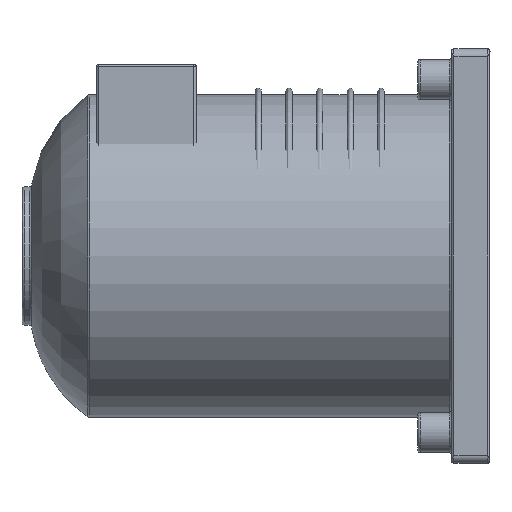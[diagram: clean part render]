
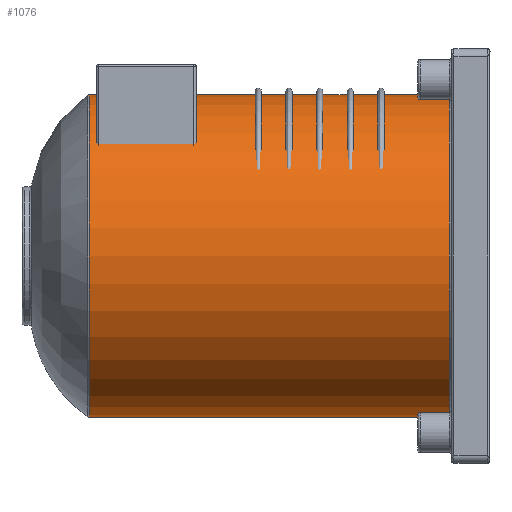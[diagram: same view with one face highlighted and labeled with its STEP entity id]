
A CAD part, left-side view. The second image highlights one B-rep face of the part: STEP entity #1076.
In plain terms, the highlighted cylindrical face has radius 105 mm (diameter 210 mm), a full revolution.
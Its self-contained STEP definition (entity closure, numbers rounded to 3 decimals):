
#1076=ADVANCED_FACE('',(#2986,#2988,#2990),#2992,.T.);
#2986=FACE_OUTER_BOUND('',#2987,.T.);
#2987=EDGE_LOOP('',(#4318));
#2988=FACE_OUTER_BOUND('',#2989,.T.);
#2989=EDGE_LOOP('',(#4319));
#2990=FACE_BOUND('',#2991,.T.);
#2991=EDGE_LOOP('',(#4320,#4321,#4322,#4323));
#2992=CYLINDRICAL_SURFACE('',#2993,105.);
#2993=AXIS2_PLACEMENT_3D('',#2994,#2995,#2996);
#2994=CARTESIAN_POINT('',(0.,0.,0.));
#2995=DIRECTION('',(0.,1.,0.));
#2996=DIRECTION('',(0.,0.,-1.));
#4318=ORIENTED_EDGE('',*,*,#4729,.F.);
#4319=ORIENTED_EDGE('',*,*,#4730,.F.);
#4320=ORIENTED_EDGE('',*,*,#4731,.T.);
#4321=ORIENTED_EDGE('',*,*,#4732,.T.);
#4322=ORIENTED_EDGE('',*,*,#4733,.T.);
#4323=ORIENTED_EDGE('',*,*,#4734,.T.);
#4729=EDGE_CURVE('',#5186,#5186,#5187,.T.);
#4730=EDGE_CURVE('',#5188,#5188,#5189,.F.);
#4731=EDGE_CURVE('',#5190,#5191,#5192,.F.);
#4732=EDGE_CURVE('',#5191,#5193,#5194,.T.);
#4733=EDGE_CURVE('',#5193,#5195,#5196,.T.);
#4734=EDGE_CURVE('',#5195,#5190,#5197,.F.);
#5186=VERTEX_POINT('',#8578);
#5187=CIRCLE('',#8579,105.);
#5188=VERTEX_POINT('',#8583);
#5189=CIRCLE('',#8584,105.);
#5190=VERTEX_POINT('',#8588);
#5191=VERTEX_POINT('',#8589);
#5192=CIRCLE('',#8590,105.);
#5193=VERTEX_POINT('',#8594);
#5194=LINE('',#8595,#8596);
#5195=VERTEX_POINT('',#8598);
#5196=CIRCLE('',#8599,105.);
#5197=LINE('',#8603,#8604);
#8578=CARTESIAN_POINT('',(0.,261.27,-105.));
#8579=AXIS2_PLACEMENT_3D('',#8580,#8581,#8582);
#8580=CARTESIAN_POINT('',(0.,261.27,0.));
#8581=DIRECTION('',(0.,1.,0.));
#8582=DIRECTION('',(0.,0.,-1.));
#8583=CARTESIAN_POINT('',(0.,26.5,-105.));
#8584=AXIS2_PLACEMENT_3D('',#8585,#8586,#8587);
#8585=CARTESIAN_POINT('',(0.,26.5,0.));
#8586=DIRECTION('',(0.,1.,0.));
#8587=DIRECTION('',(0.,0.,-1.));
#8588=CARTESIAN_POINT('',(67.5,201.,80.429));
#8589=CARTESIAN_POINT('',(-67.5,201.,80.429));
#8590=AXIS2_PLACEMENT_3D('',#8591,#8592,#8593);
#8591=CARTESIAN_POINT('',(0.,201.,0.));
#8592=DIRECTION('',(0.,1.,0.));
#8593=DIRECTION('',(-0.643,0.,0.766));
#8594=CARTESIAN_POINT('',(-67.5,247.,80.429));
#8595=CARTESIAN_POINT('',(-67.5,201.,80.429));
#8596=VECTOR('',#8597,1.);
#8597=DIRECTION('',(0.,1.,0.));
#8598=CARTESIAN_POINT('',(67.5,247.,80.429));
#8599=AXIS2_PLACEMENT_3D('',#8600,#8601,#8602);
#8600=CARTESIAN_POINT('',(0.,247.,0.));
#8601=DIRECTION('',(0.,1.,0.));
#8602=DIRECTION('',(-0.643,0.,0.766));
#8603=CARTESIAN_POINT('',(67.5,201.,80.429));
#8604=VECTOR('',#8605,1.);
#8605=DIRECTION('',(0.,1.,0.));
